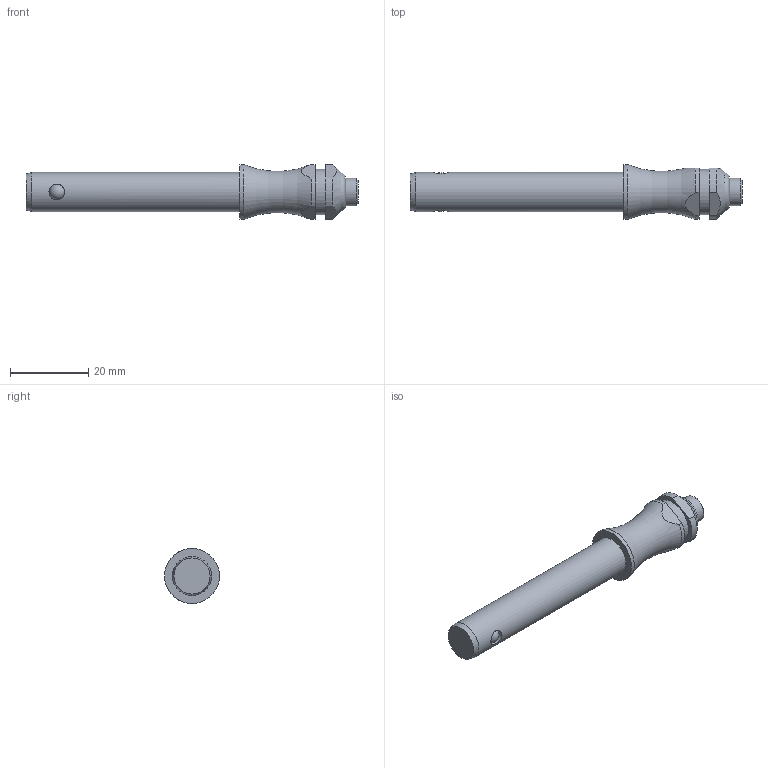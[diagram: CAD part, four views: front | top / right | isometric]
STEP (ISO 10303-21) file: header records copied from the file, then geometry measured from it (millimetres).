
FILE_DESCRIPTION( ( 'STEP AP203' ), '1' );
FILE_NAME( 'C:/Temp/Ganter_Step_05_03_2020/data/3_1/gn113_3/Stainless Steel-Ball lock pin GN 113.3-10-45 (activated).stp', '2020-03-12T08:18:34', ( 'License CC BY-ND 4.0' ), ( 'CADENAS' ), ' ', 'PARTsolutions', ' ' );
FILE_SCHEMA( ( 'CONFIG_CONTROL_DESIGN' ) );
Length unit declared in the file: millimetre
Products named in the file (1): _Stainless Steel-Ball lock pin GN 113.3-10-45 (activated)
Bounding box: 84.75 x 14 x 14 mm (x, y, z)
Volume: 7366.2 mm3; surface area: 3166.3 mm2
Topology: 1 solids, 1 shells, 30 faces, 72 edges, 45 vertices
Faces by surface type: cylinder 12, plane 11, cone 3, torus 2, sphere 2
Full cylindrical faces by diameter (mm): 4 x2, 7 x1, 10 x1, 11.6 x1, 14 x1
Entity records: 988 total; most frequent: CARTESIAN_POINT 341, DIRECTION 130, ORIENTED_EDGE 102, AXIS2_PLACEMENT_3D 56, EDGE_CURVE 51, EDGE_LOOP 46, VERTEX_POINT 39, FACE_OUTER_BOUND 38
